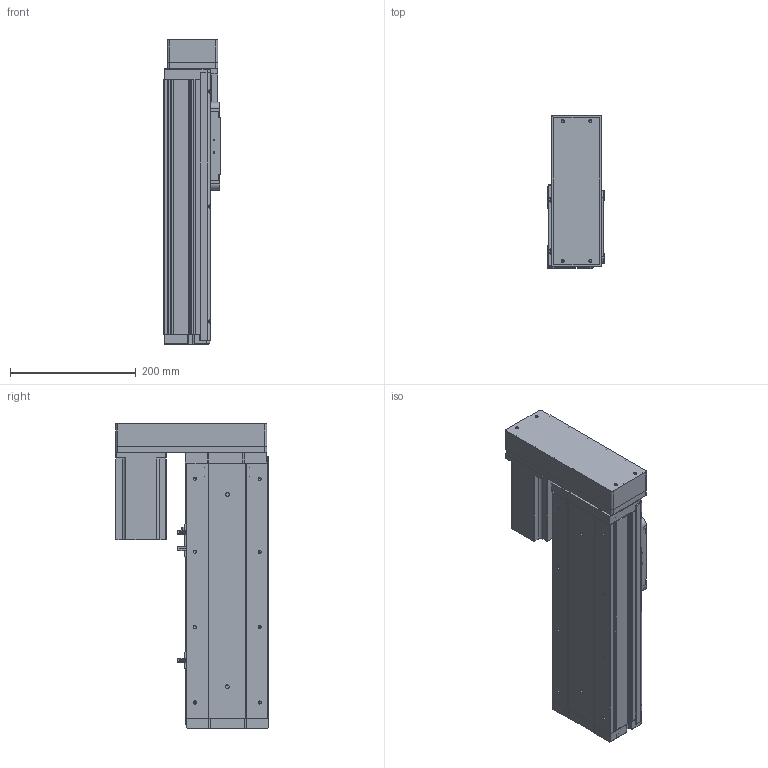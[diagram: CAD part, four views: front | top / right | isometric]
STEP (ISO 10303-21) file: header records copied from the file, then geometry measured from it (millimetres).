
FILE_DESCRIPTION (( 'STEP AP214' ), '1' );
FILE_NAME ('KSD130S-P2010-ML-CR-S200.STEP', '2019-09-24T03:55:34', ( '微软用户' ), ( '微软中国' ), 'SwSTEP 2.0', 'SolidWorks 2014', '' );
FILE_SCHEMA (( 'AUTOMOTIVE_DESIGN' ));
Length unit declared in the file: millimetre
Products named in the file (14): 130宽模组保护罩左右折; 台达ECMA－C20807AS伺服电机; 130宽模组马达安装板连板左右折丝杆; 感应片130宽全封闭; U倰嫖萇EEㄜSX672; 130遵裔啣揤啣1; 130宽盖板全封闭-200行程; 130宽滚珠螺姆安装板1防护罩; 130宽滚珠螺姆安装板1; 130宽侧板全封闭-200行程; 130宽全封闭马达安装板丝杠; 130宽底板全封闭丝杠-200行程; KSD130S-P2010-ML-CR-S200; 130宽全封闭端盖丝杠
Assembly tree (17 placements, depth 2):
  KSD130S-P2010-ML-CR-S200
    130宽底板全封闭丝杠-200行程
    130宽全封闭马达安装板丝杠
    130宽侧板全封闭-200行程  x2
    130宽滚珠螺姆安装板1
    130宽滚珠螺姆安装板1防护罩
    130宽盖板全封闭-200行程
    130遵裔啣揤啣1  x2
    U倰嫖萇EEㄜSX672  x3
    感应片130宽全封闭
    130宽模组马达安装板连板左右折丝杆
    台达ECMA－C20807AS伺服电机
    130宽模组保护罩左右折
    130宽全封闭端盖丝杠
Bounding box: 90 x 242.18 x 484.5 mm (x, y, z)
Volume: 2522744.6 mm3; surface area: 728318.4 mm2
Topology: 18 solids, 18 shells, 1374 faces, 3756 edges, 2391 vertices
Faces by surface type: plane 611, cylinder 592, cone 171
Entity records: 41382 total; most frequent: DIRECTION 6287, CARTESIAN_POINT 6259, ORIENTED_EDGE 5878, EDGE_CURVE 2939, AXIS2_PLACEMENT_3D 2235, VERTEX_POINT 1921, VECTOR 1817, LINE 1817
